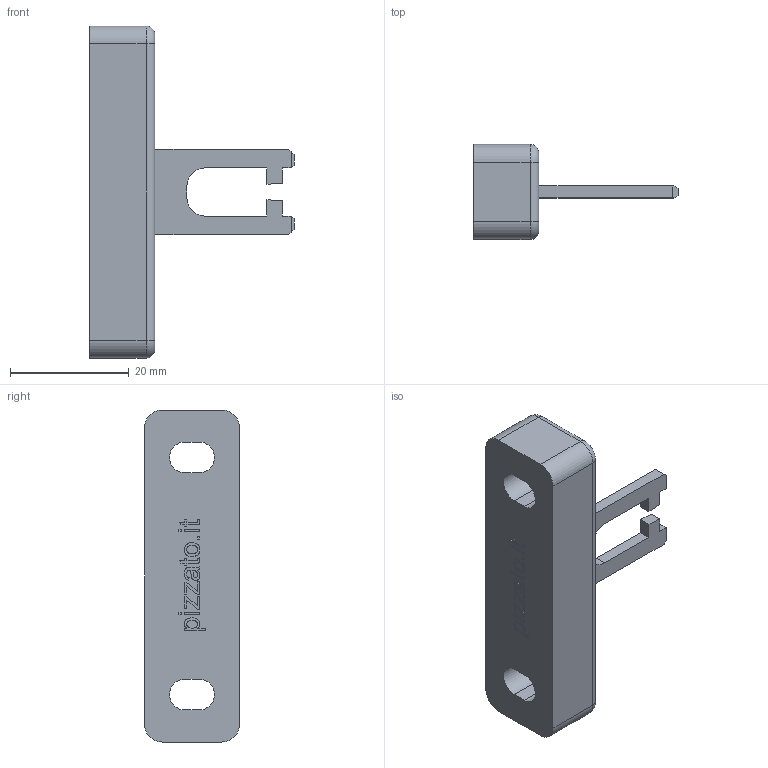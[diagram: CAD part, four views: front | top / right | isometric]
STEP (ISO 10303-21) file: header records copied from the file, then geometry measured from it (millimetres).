
FILE_DESCRIPTION (( 'STEP AP214' ), '1' );
FILE_NAME ('ZF_STEP_VF_KEYD7.step', '2023-12-15T07:58:12', ( '' ), ( '' ), 'SwSTEP 2.0', 'SolidWorks 2020', '' );
FILE_SCHEMA (( 'AUTOMOTIVE_DESIGN' ));
Length unit declared in the file: millimetre
Products named in the file (2): ZF_STEP_VF_KEYD7
Assembly tree (1 placements, depth 2):
  ZF_STEP_VF_KEYD7
    ZF_STEP_VF_KEYD7
Bounding box: 34.5 x 16 x 56 mm (x, y, z)
Volume: 8832.7 mm3; surface area: 4296.8 mm2
Topology: 1 solids, 1 shells, 205 faces, 543 edges, 358 vertices
Faces by surface type: plane 139, bspline 48, cylinder 14, torus 4
Entity records: 8387 total; most frequent: CARTESIAN_POINT 3526, ORIENTED_EDGE 1086, DIRECTION 801, EDGE_CURVE 543, VECTOR 415, LINE 415, VERTEX_POINT 358, EDGE_LOOP 227
